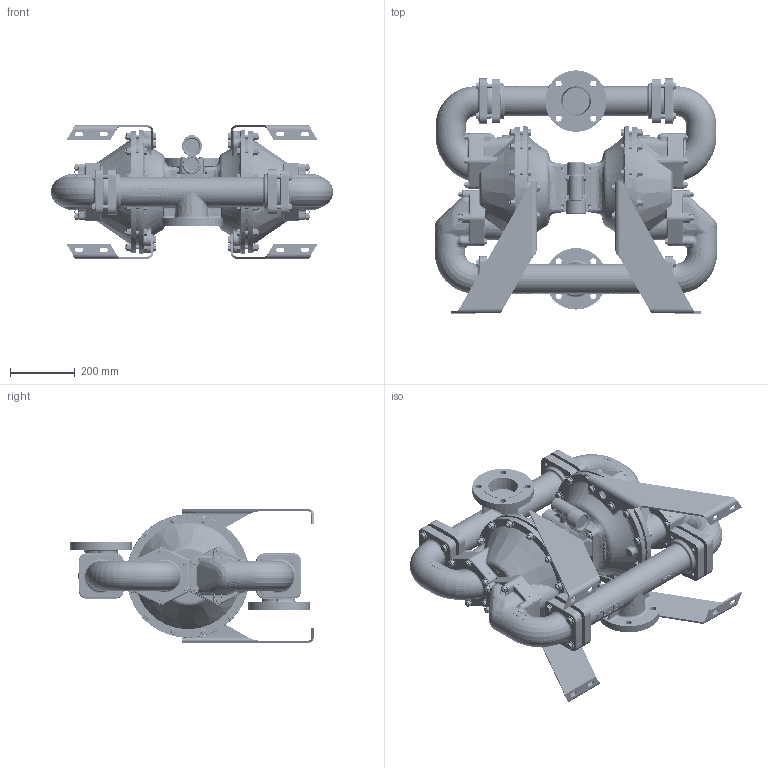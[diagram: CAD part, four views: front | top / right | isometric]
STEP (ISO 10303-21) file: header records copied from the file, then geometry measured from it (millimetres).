
FILE_DESCRIPTION (( 'STEP AP203' ), '1' );
FILE_NAME ('t1510_al_brahma_pump.STEP', '2022-06-28T10:09:12', ( '' ), ( '' ), 'SwSTEP 2.0', 'SolidWorks 2019', '' );
FILE_SCHEMA (( 'CONFIG_CONTROL_DESIGN' ));
Products named in the file (1): t1510_al_brahma_pump
Bounding box: 873.58 x 753.34 x 412.65 mm (x, y, z)
Volume: 59422338.2 mm3; surface area: 2759064.7 mm2
Topology: 1 solids, 1 shells, 11979 faces, 31244 edges, 19860 vertices
Faces by surface type: plane 8148, cylinder 1452, cone 1409, bspline 649, torus 245, sphere 76
Entity records: 493864 total; most frequent: CARTESIAN_POINT 210411, ORIENTED_EDGE 62462, DIRECTION 53614, EDGE_CURVE 31231, VERTEX_POINT 19860, VECTOR 19086, LINE 19086, AXIS2_PLACEMENT_3D 17264
